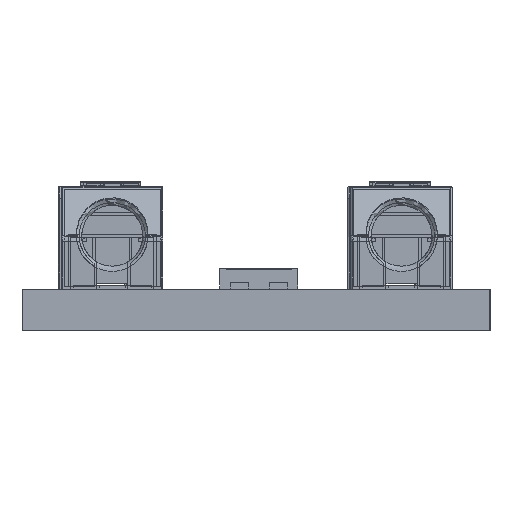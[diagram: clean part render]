
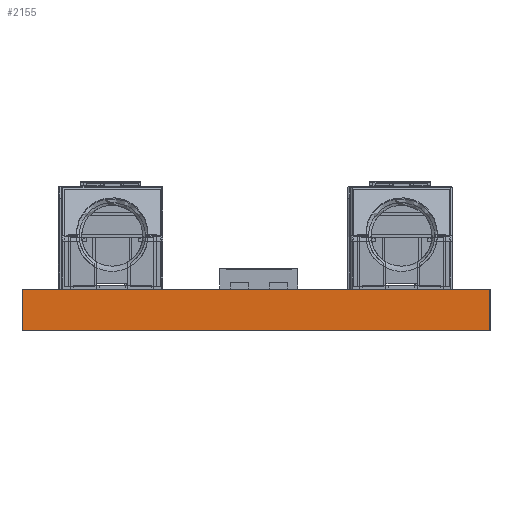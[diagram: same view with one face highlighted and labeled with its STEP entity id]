
A CAD part, left-side view. The second image highlights one B-rep face of the part: STEP entity #2155.
In plain terms, the highlighted planar face has unit normal (-1, 0, 0).
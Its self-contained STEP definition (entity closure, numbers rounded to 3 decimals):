
#2155=ADVANCED_FACE('',(#6745),#4408,.F.);
#4408=PLANE('',#51988);
#6745=FACE_OUTER_BOUND('',#9197,.T.);
#9197=EDGE_LOOP('',(#18446,#18447,#18448,#18449));
#18446=ORIENTED_EDGE('',*,*,#32250,.T.);
#18447=ORIENTED_EDGE('',*,*,#32251,.F.);
#18448=ORIENTED_EDGE('',*,*,#32252,.F.);
#18449=ORIENTED_EDGE('',*,*,#32248,.T.);
#26386=VERTEX_POINT('',#102302);
#26387=VERTEX_POINT('',#102304);
#26388=VERTEX_POINT('',#102308);
#26389=VERTEX_POINT('',#102310);
#32248=EDGE_CURVE('',#26387,#26386,#41012,.T.);
#32250=EDGE_CURVE('',#26386,#26388,#41014,.T.);
#32251=EDGE_CURVE('',#26389,#26388,#41015,.T.);
#32252=EDGE_CURVE('',#26387,#26389,#41016,.T.);
#41012=LINE('',#102303,#47705);
#41014=LINE('',#102307,#47707);
#41015=LINE('',#102309,#47708);
#41016=LINE('',#102311,#47709);
#47705=VECTOR('',#60869,1.);
#47707=VECTOR('',#60873,1.);
#47708=VECTOR('',#60874,1.);
#47709=VECTOR('',#60875,1.);
#51988=AXIS2_PLACEMENT_3D('',#102312,#60876,#60877);
#60869=DIRECTION('',(0.,0.,1.));
#60873=DIRECTION('',(0.,1.,0.));
#60874=DIRECTION('',(0.,0.,1.));
#60875=DIRECTION('',(0.,1.,0.));
#60876=DIRECTION('',(1.,0.,0.));
#60877=DIRECTION('',(0.,0.,-1.));
#102302=CARTESIAN_POINT('',(0.,0.,0.));
#102303=CARTESIAN_POINT('',(0.,0.,-1.6));
#102304=CARTESIAN_POINT('',(0.,0.,-1.6));
#102307=CARTESIAN_POINT('',(0.,0.,0.));
#102308=CARTESIAN_POINT('',(0.,17.999,0.));
#102309=CARTESIAN_POINT('',(0.,17.999,-1.6));
#102310=CARTESIAN_POINT('',(0.,17.999,-1.6));
#102311=CARTESIAN_POINT('',(0.,0.,-1.6));
#102312=CARTESIAN_POINT('',(0.,0.,-1.6));
